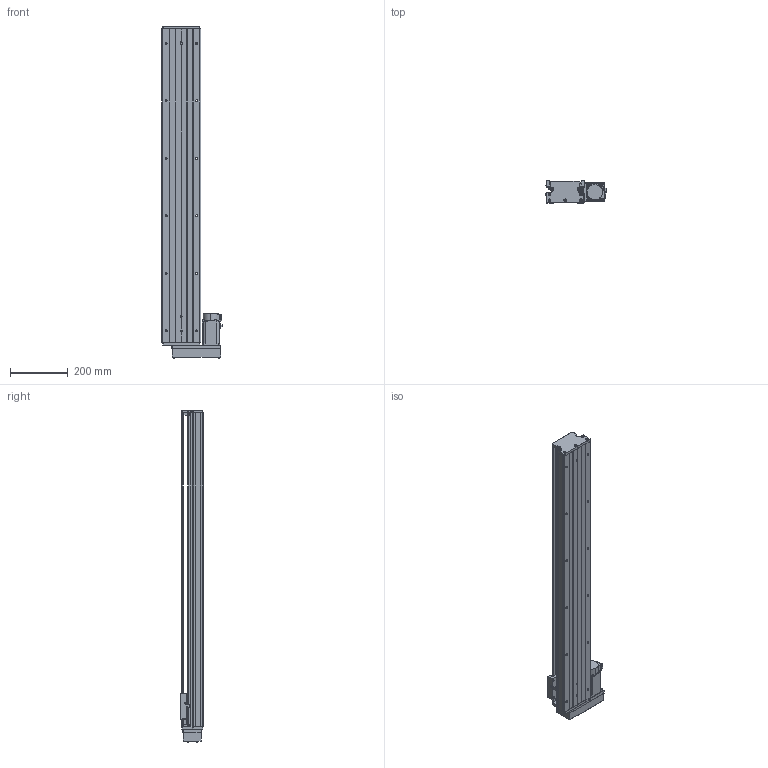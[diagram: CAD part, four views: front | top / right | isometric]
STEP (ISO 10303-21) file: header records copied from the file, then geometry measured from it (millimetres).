
FILE_DESCRIPTION (( 'STEP AP203' ), '1' );
FILE_NAME ('KTH130-950-BR-M40-C4.step', '2023-06-30T04:13:21', ( '微软用户' ), ( '微软中国' ), 'SwSTEP 2.0', 'SolidWorks 2020', '' );
FILE_SCHEMA (( 'CONFIG_CONTROL_DESIGN' ));
Length unit declared in the file: millimetre
Products named in the file (19): KTH130-002_KTH130-002; EE_SX911P_R; GBT 70.2-M4¡Á35_M4¡Á35; KTH130-004; CTHA60-016; GTH14-015-2_CTHA86-015-2; KTH130-005; GBT 70.1-M3℅5; GTH14-033; GB1155-6X6; GBT77-2000 M3×3; KTH130-950-BR-M40-C4; GBT70.1 M5℅16; す晦芛蹟隊 M3℅5; GBT 70.2-M3¡Á5_M3¡Á6; GBT 70.3-M3℅8; GTH14-001_950; CTHA60-017; HG-KN43J-S100
Assembly tree (53 placements, depth 2):
  KTH130-950-BR-M40-C4
    GTH14-001_950
    KTH130-002_KTH130-002
    KTH130-004
    KTH130-005
    GB1155-6X6  x2
    GBT70.1 M5℅16  x10
    GBT 70.2-M3¡Á5_M3¡Á6  x4
    CTHA60-017  x3
    EE_SX911P_R  x3
    CTHA60-016  x2
    GBT 70.1-M3℅5  x6
    GBT77-2000 M3×3  x6
    す晦芛蹟隊 M3℅5  x2
    GBT 70.3-M3℅8  x4
    HG-KN43J-S100
    GBT 70.2-M4¡Á35_M4¡Á35  x4
    GTH14-015-2_CTHA86-015-2
    GTH14-033
Bounding box: 209.3 x 78 x 1154.2 mm (x, y, z)
Volume: 6433873.6 mm3; surface area: 1019271.8 mm2
Topology: 56 solids, 56 shells, 2233 faces, 5390 edges, 3358 vertices
Faces by surface type: plane 1199, cylinder 620, cone 290, torus 100, sphere 24
Entity records: 40866 total; most frequent: CARTESIAN_POINT 8684, DIRECTION 6099, ORIENTED_EDGE 5980, EDGE_CURVE 2990, AXIS2_PLACEMENT_3D 2104, VERTEX_POINT 1911, VECTOR 1891, LINE 1891
